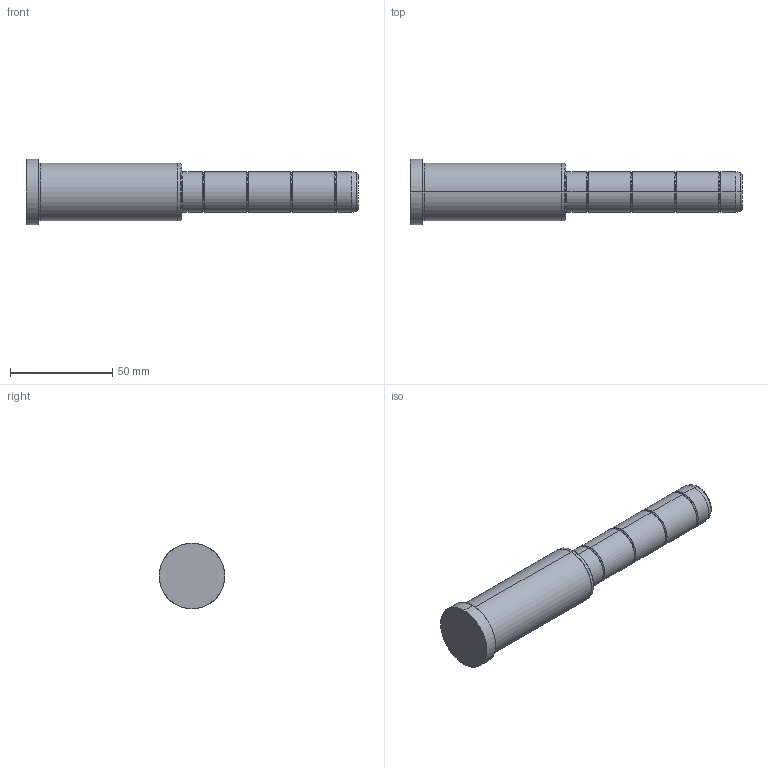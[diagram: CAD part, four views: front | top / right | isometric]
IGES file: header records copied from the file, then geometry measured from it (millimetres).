
Start section: SolidWorks IGES file using analytic representation for surfaces
Global section: file name: C:\Documents and Settings\kalite-mail\Desktop\IGS\D02\20\D02 - 20x76x86.IGS; native system: SolidWorks 2008; preprocessor: SolidWorks 2008; author: kalite-mail; date: 080616.164206; units: millimetre
Bounding box: 162 x 32 x 32 mm (x, y, z)
Surface area: 13807.2 mm2 (no closed solid volume)
Topology: 0 solids, 0 shells, 48 faces, 712 edges, 712 vertices
Faces by surface type: bspline 26, revolution 22
